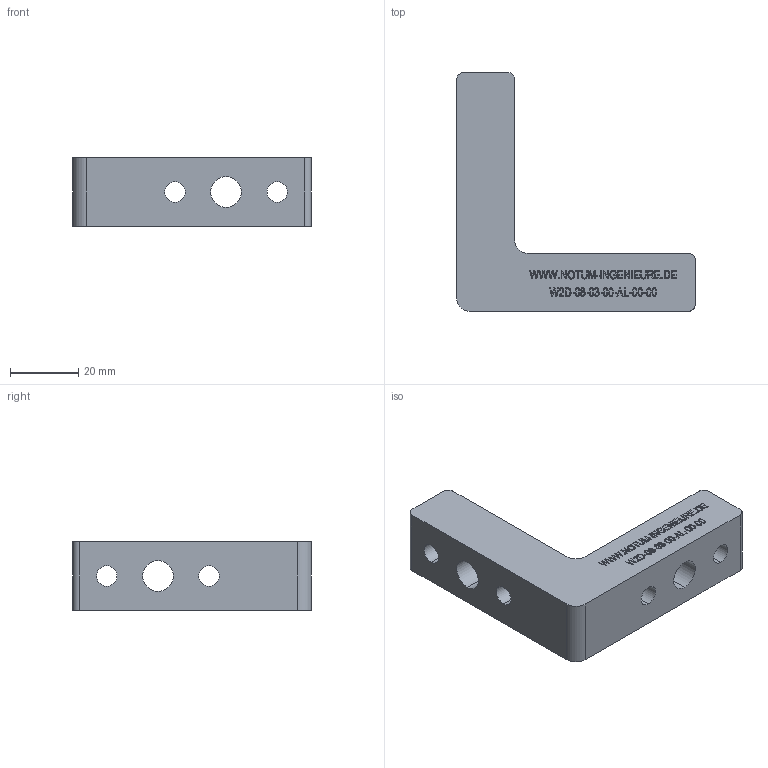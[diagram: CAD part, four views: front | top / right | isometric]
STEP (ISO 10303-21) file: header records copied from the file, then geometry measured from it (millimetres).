
FILE_DESCRIPTION (( 'STEP AP214' ), '1' );
FILE_NAME ('W2D-08-03-00-AL-00-00__Notum.STEP', '2018-03-29T11:15:01', ( '' ), ( '' ), 'SwSTEP 2.0', 'SolidWorks 2015', '' );
FILE_SCHEMA (( 'AUTOMOTIVE_DESIGN' ));
Length unit declared in the file: millimetre
Products named in the file (1): W2D-08-03-00-AL-00-00__Notum
Bounding box: 70 x 70 x 20 mm (x, y, z)
Volume: 37636.4 mm3; surface area: 11632 mm2
Topology: 1 solids, 1 shells, 531 faces, 1410 edges, 940 vertices
Faces by surface type: plane 337, bspline 176, cylinder 18
Entity records: 31160 total; most frequent: CARTESIAN_POINT 13578, ORIENTED_EDGE 2820, DIRECTION 1806, EDGE_CURVE 1410, LINE 1022, VECTOR 1022, VERTEX_POINT 940, EDGE_LOOP 602
